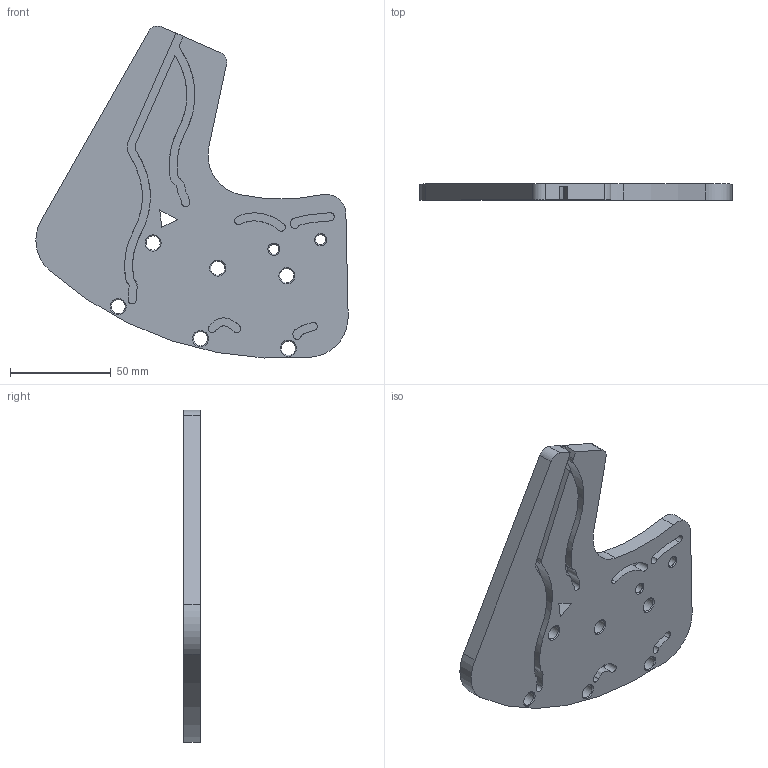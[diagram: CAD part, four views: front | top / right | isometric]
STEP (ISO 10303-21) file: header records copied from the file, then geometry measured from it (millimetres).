
FILE_DESCRIPTION(/* description */ (''),/* implementation_level */ '2;1');
FILE_NAME(/* name */ 'GETOUT_STAVE_70-SX.stp',/* time_stamp */ '2018-10-12T17:44:22+02:00',/* author */ (''),/* organization */ (''),/* preprocessor_version */ 'ST-DEVELOPER v16.7',/* originating_system */ 'SIEMENS PLM Software NX 12.0',/* authorisation */ '');
FILE_SCHEMA (('AP203_CONFIGURATION_CONTROLLED_3D_DESIGN_OF_MECHANICAL_PARTS_AND_ASSEMBLIES_MIM_LF { 1 0 10303 403 2 1 2}'));
Length unit declared in the file: millimetre
Products named in the file (1): turc1934B35Eh6ek
Bounding box: 154.97 x 8 x 164.76 mm (x, y, z)
Volume: 108701.6 mm3; surface area: 39548.7 mm2
Topology: 1 solids, 1 shells, 344 faces, 900 edges, 596 vertices
Faces by surface type: plane 241, extrusion 58, cylinder 29, cone 16
Full cylindrical faces by diameter (mm): 5 x2, 7 x6
Entity records: 13507 total; most frequent: CARTESIAN_POINT 5894, ORIENTED_EDGE 1744, DIRECTION 1087, EDGE_CURVE 872, VERTEX_POINT 592, B_SPLINE_CURVE_WITH_KNOTS 557, EDGE_LOOP 424, AXIS2_PLACEMENT_3D 365
